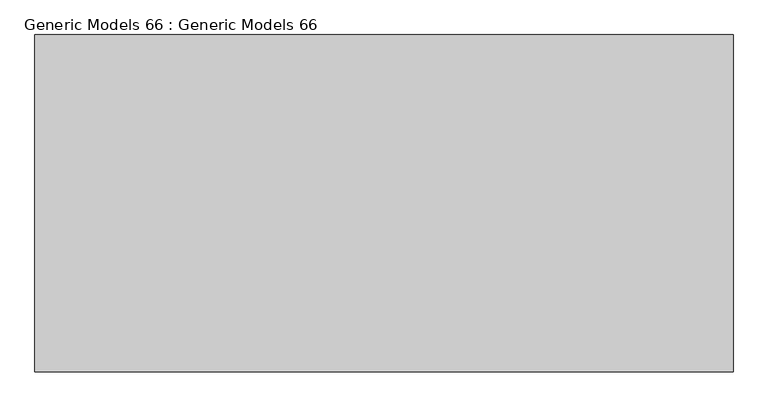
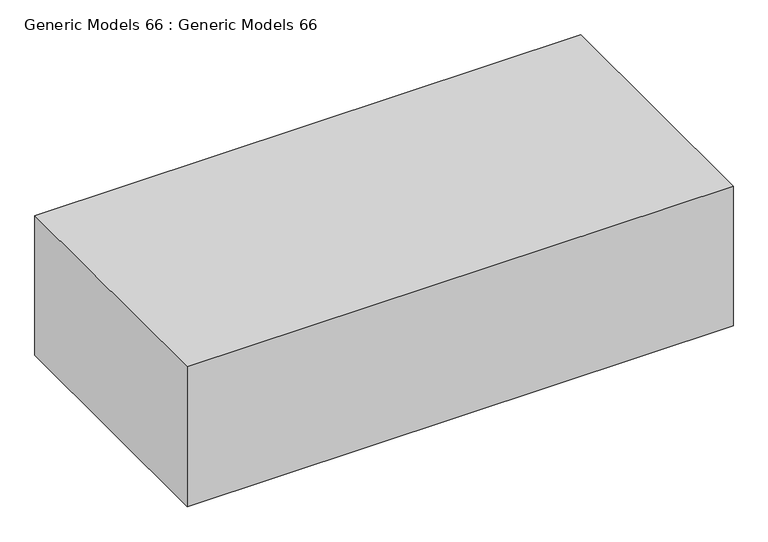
"""IFC4 building model written with IfcOpenShell, lengths in millimetres: proxy geometry, Generic Models 66 : Generic Models 66."""

from ifc_helpers import new_model, si_unit, frame, origin, place, context, project, spatial, polyline, outline, extrude, source, transform, mapped, element, save


def generic_models_66_generic_models_66_a00b6013(model_context):
    return source(origin(), model_context, "Body", "SweptSolid", [
        extrude(outline(polyline([(-1720.85, 8851.9), (-1720.85, 9486.9), (-406.4, 9486.9), (-406.4, 8851.9), (-1720.85, 8851.9)])), frame((0.0, 0.0, 5943.6), z_axis=(0.0, 0.0, 1.0), x_axis=(1.0, 0.0, 0.0)), (0.0, 0.0, 1.0), 355.6),
    ])


if __name__ == "__main__":
    model = new_model("IFC4")
    model_context = context("Model", 3, world=origin())
    ifc_project = project(units=[si_unit("LENGTHUNIT", "METRE", prefix="MILLI")], contexts=[model_context])
    site = spatial("IfcSite", under=ifc_project)
    building = spatial("IfcBuilding", under=site)
    placement = place(None, origin())
    generic_models_66_generic_models_66_shape = generic_models_66_generic_models_66_a00b6013(model_context)
    element("IfcBuildingElementProxy", 1, Name="Generic Models 66 : Generic Models 66", ObjectType="Generic Models 66 : Generic Models 66", at=placement, inside=building, context=model_context, shape_type="MappedRepresentation", body=[
        mapped(generic_models_66_generic_models_66_shape, transform((0.0, 0.0, 0.0), x_axis=(1.0, 0.0, 0.0), y_axis=(0.0, 1.0, 0.0), z_axis=(0.0, 0.0, 1.0))),
    ])
    save(model, "model.ifc")
